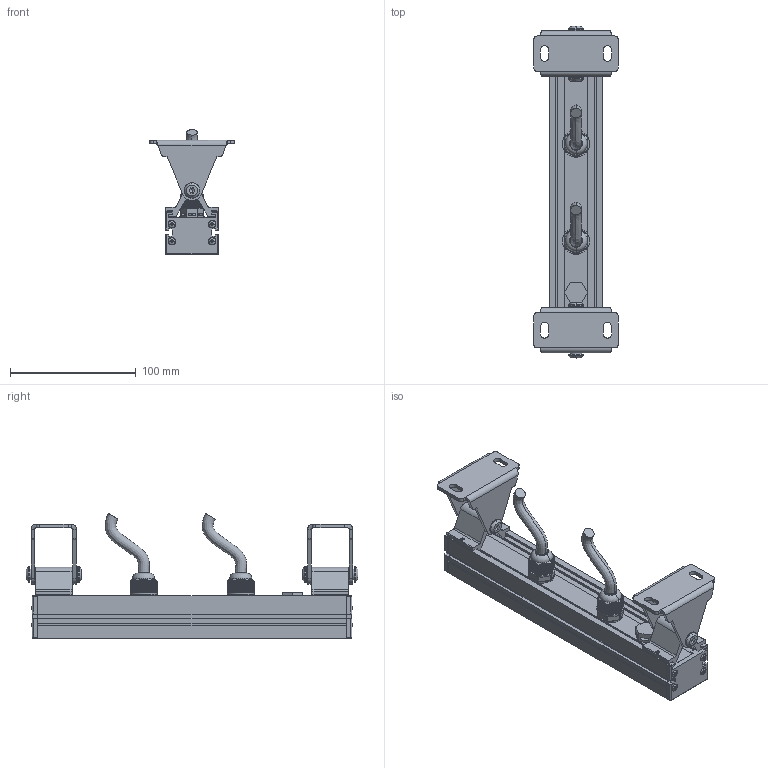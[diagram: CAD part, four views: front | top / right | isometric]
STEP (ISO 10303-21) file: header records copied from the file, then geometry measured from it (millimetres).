
FILE_DESCRIPTION((''),'2;1');
FILE_NAME('B6KD0657_ASM','2023-02-04T',('Administrator'),(''),'CREO PARAMETRIC BY PTC INC, 2015200','CREO PARAMETRIC BY PTC INC, 2015200','');
FILE_SCHEMA(('CONFIG_CONTROL_DESIGN'));
Length unit declared in the file: millimetre
Products named in the file (22): 6KE-T; 6K-_3D_2017_1_6_; 6K_56_1; 6K_BL_06_9; PAD_1_1; FANGUANGSAI-1_1_1; FANGSHUISAI_1_1; MANIFOLEF_1_1; PG9_ASM_1_ASM; M3X6-YT_2; 6K_LJB_24PCS_5; 6R_TJZJ_5; 6K_LJB_ZJ_ASM_6_ASM; M3-22; PRODUCT_88784_ANY_1_1; 002_53; XIAZHIJIA-6K-GAOY004_13; M9; M3; SOCKET_HEAD_CAP_SCREW_ISO_ISO_4; XINZHIJIA-6K-GAOYA004_ASM_12_ASM; B6KD0657_ASM
Assembly tree (37 placements, depth 3):
  B6KD0657_ASM
    6KE-T
    6K-_3D_2017_1_6_  x2
    6K_56_1  x2
    6K_BL_06_9
    PG9_ASM_1_ASM  x2
      PAD_1_1
      FANGUANGSAI-1_1_1
      FANGSHUISAI_1_1
      MANIFOLEF_1_1
    M3X6-YT_2  x8
    6K_LJB_ZJ_ASM_6_ASM
      6K_LJB_24PCS_5
      6R_TJZJ_5
    M3-22  x3
    PRODUCT_88784_ANY_1_1
    XINZHIJIA-6K-GAOYA004_ASM_12_ASM  x2
      002_53
      XIAZHIJIA-6K-GAOY004_13
      M9
      M3
      SOCKET_HEAD_CAP_SCREW_ISO_ISO_4
Bounding box: 67 x 264 x 99.16 mm (x, y, z)
Volume: 280178.4 mm3; surface area: 172324.1 mm2
Topology: 44 solids, 44 shells, 2819 faces, 7304 edges, 4632 vertices
Faces by surface type: plane 1669, cylinder 624, cone 430, bspline 48, torus 20, sphere 16, revolution 12
Entity records: 46385 total; most frequent: CARTESIAN_POINT 15430, ORIENTED_EDGE 6598, DIRECTION 5911, EDGE_CURVE 3299, VECTOR 2235, LINE 2235, VERTEX_POINT 2154, AXIS2_PLACEMENT_3D 1832
